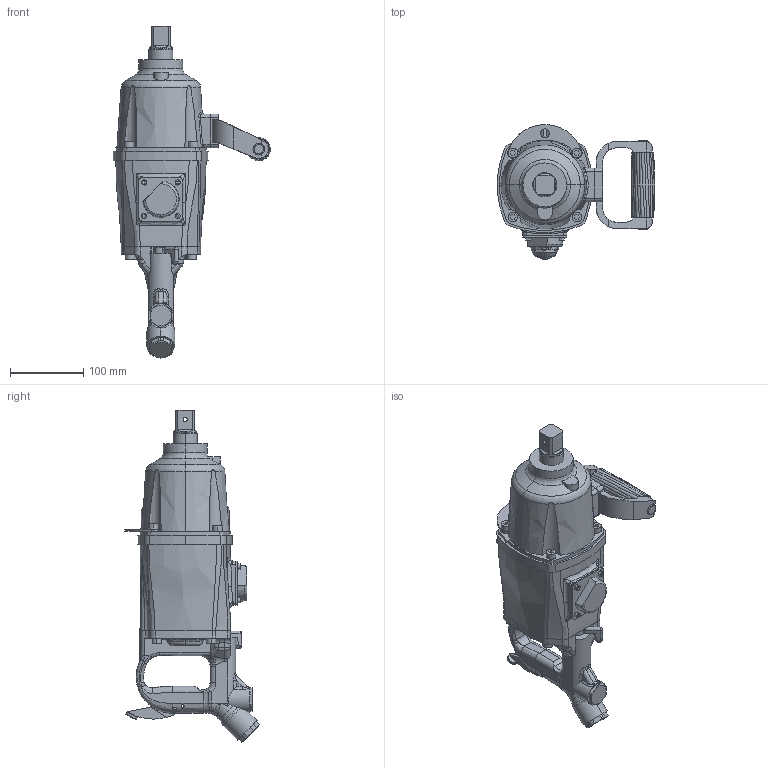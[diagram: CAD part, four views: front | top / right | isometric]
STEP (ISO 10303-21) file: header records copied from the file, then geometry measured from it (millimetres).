
FILE_DESCRIPTION (( 'STEP AP214' ), '1' );
FILE_NAME ('UXR-3000S(OUT).STEP', '2006-09-06T04:08:17', ( '' ), ( '' ), 'SwSTEP 2.0', 'SolidWorks 2004073', '' );
FILE_SCHEMA (( 'AUTOMOTIVE_DESIGN' ));
Length unit declared in the file: millimetre
Products named in the file (7): 1032120_UXR-T3000S(OUT)_蹬怮椔; 1754393_UXR-T3000S(OUT)_蹬怮椔; 1753192_UXR-T3000S(OUT)_蹬怮椔; UXR-3000S(OUT); 1091071_UXR-T3000S(OUT)_蹬怮椔; 1750102_UXR-T3000S(OUT)_蹬怮椔; 1750252_UXR-T3000S(OUT)_蹬怮椔
Assembly tree (6 placements, depth 2):
  UXR-3000S(OUT)
    1750252_UXR-T3000S(OUT)_蹬怮椔
    1032120_UXR-T3000S(OUT)_蹬怮椔
    1091071_UXR-T3000S(OUT)_蹬怮椔
    1753192_UXR-T3000S(OUT)_蹬怮椔
    1750102_UXR-T3000S(OUT)_蹬怮椔
    1754393_UXR-T3000S(OUT)_蹬怮椔
Bounding box: 215.15 x 183.73 x 454.14 mm (x, y, z)
Volume: 3560544.5 mm3; surface area: 275363.6 mm2
Topology: 6 solids, 6 shells, 972 faces, 2580 edges, 1663 vertices
Faces by surface type: plane 362, cylinder 298, bspline 257, torus 33, cone 15, sphere 7
Entity records: 93341 total; most frequent: CARTESIAN_POINT 67108, ORIENTED_EDGE 5136, DIRECTION 3737, EDGE_CURVE 2568, VERTEX_POINT 1662, AXIS2_PLACEMENT_3D 1345, VECTOR 1047, LINE 1047
